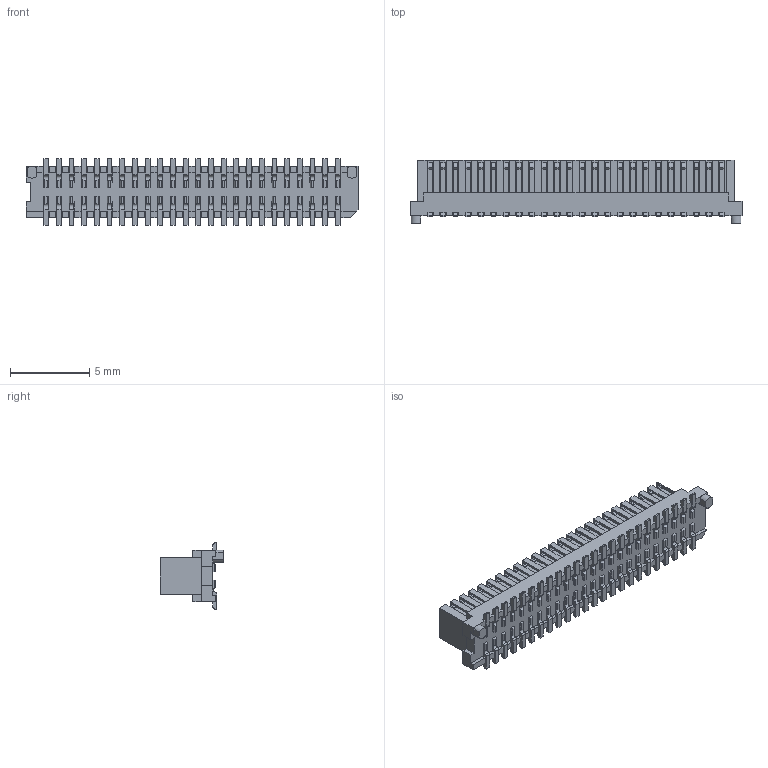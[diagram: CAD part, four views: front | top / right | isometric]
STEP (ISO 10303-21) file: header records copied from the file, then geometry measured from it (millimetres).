
FILE_DESCRIPTION (( 'STEP AP203' ), '1' );
FILE_NAME ('HC-PBB08-1-48-M-S-H3.55-XX-R-P-06 (BTB0.8 单槽 公座 立式侧插 座高3.55mm 编带 带柱)-HCTL.STEP', '2025-12-09T06:59:28', ( '' ), ( '' ), 'SwSTEP 2.0', 'SolidWorks 2025', '' );
FILE_SCHEMA (( 'CONFIG_CONTROL_DESIGN' ));
Length unit declared in the file: millimetre
Products named in the file (1): HC-PBB08-1-48-M-S-H3.55-XX-R-P-06 (BTB0.8 单槽 公座 立式侧插 座高3.55mm 编带 带柱)-HCTL
Bounding box: 20.95 x 4 x 4.21 mm (x, y, z)
Volume: 169.4 mm3; surface area: 737.3 mm2
Topology: 1 solids, 1 shells, 1579 faces, 5209 edges, 3440 vertices
Faces by surface type: plane 1239, cylinder 340
Entity records: 56742 total; most frequent: CARTESIAN_POINT 10517, ORIENTED_EDGE 10418, DIRECTION 8955, EDGE_CURVE 5209, VECTOR 4431, LINE 4431, VERTEX_POINT 3440, AXIS2_PLACEMENT_3D 2262
